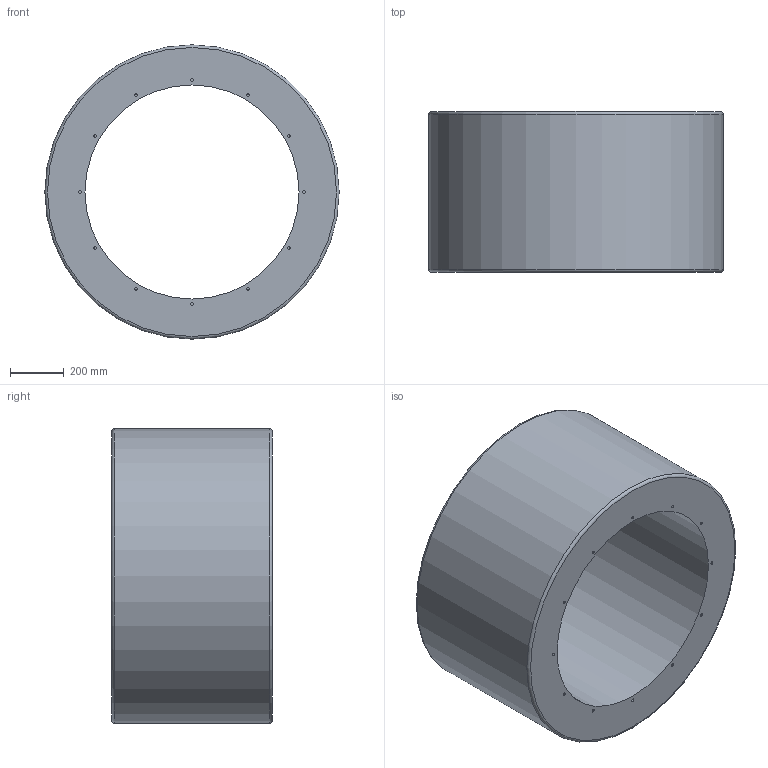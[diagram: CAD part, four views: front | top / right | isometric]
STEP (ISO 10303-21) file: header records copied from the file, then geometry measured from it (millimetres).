
FILE_DESCRIPTION(/* description */ (''),/* implementation_level */ '2;1');
FILE_NAME(/* name */ 'Z:\Output\RSD_800-600-08764-002.stp',/* time_stamp */ '2017-09-20T12:04:24+02:00',/* author */ ('Engineering1'),/* organization */ (''),/* preprocessor_version */ 'ST-DEVELOPER v16.5',/* originating_system */ 'Autodesk Inventor 2017',/* authorisation */ '');
FILE_SCHEMA (('AUTOMOTIVE_DESIGN { 1 0 10303 214 3 1 1 }'));
Length unit declared in the file: millimetre
Products named in the file (1): RSD-1
Bounding box: 1100 x 600 x 1100 mm (x, y, z)
Volume: 268439602.6 mm3; surface area: 4454556 mm2
Topology: 1 solids, 1 shells, 54 faces, 82 edges, 54 vertices
Faces by surface type: cylinder 26, plane 26, torus 2
Full cylindrical faces by diameter (mm): 10 x24, 800 x1, 1100 x1
Entity records: 1126 total; most frequent: DIRECTION 218, CARTESIAN_POINT 163, AXIS2_PLACEMENT_3D 109, EDGE_LOOP 108, ORIENTED_EDGE 108, FACE_BOUND 54, FACE_OUTER_BOUND 54, CIRCLE 54
